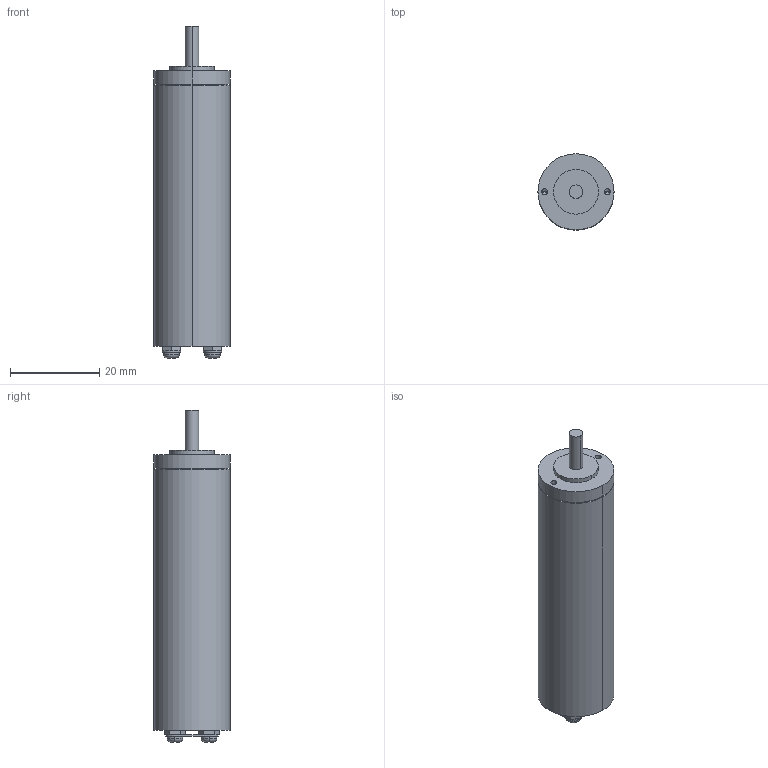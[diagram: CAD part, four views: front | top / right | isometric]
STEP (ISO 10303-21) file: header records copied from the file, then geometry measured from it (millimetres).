
FILE_DESCRIPTION (( 'STEP AP214' ), '1' );
FILE_NAME ('C-1858.STEP', '2024-11-12T08:22:28', ( '' ), ( '' ), 'SwSTEP 2.0', 'SolidWorks 2024', '' );
FILE_SCHEMA (( 'AUTOMOTIVE_DESIGN' ));
Length unit declared in the file: millimetre
Products named in the file (1): C-1858
Bounding box: 17 x 17 x 74.2 mm (x, y, z)
Volume: 14173.1 mm3; surface area: 4190.5 mm2
Topology: 1 solids, 1 shells, 104 faces, 262 edges, 166 vertices
Faces by surface type: plane 70, cylinder 26, cone 4, torus 4
Entity records: 3141 total; most frequent: CARTESIAN_POINT 621, DIRECTION 516, ORIENTED_EDGE 516, EDGE_CURVE 258, AXIS2_PLACEMENT_3D 181, VERTEX_POINT 166, VECTOR 154, LINE 154
